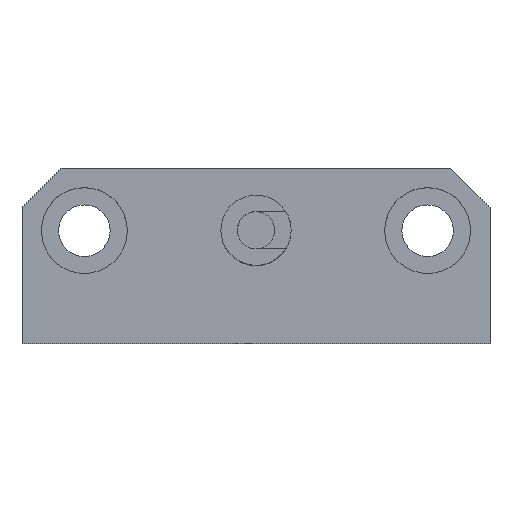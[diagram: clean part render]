
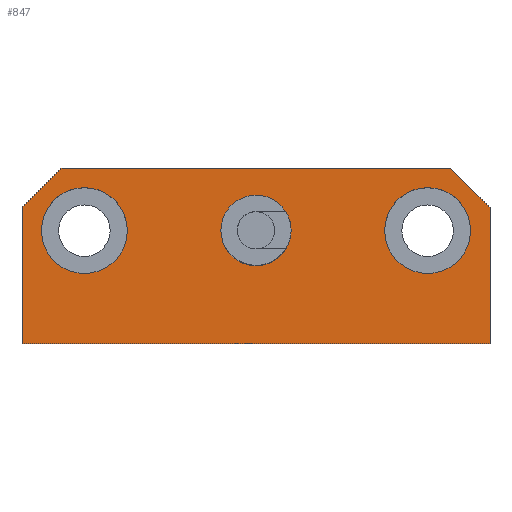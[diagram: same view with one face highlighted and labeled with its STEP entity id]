
A CAD part, top view. The second image highlights one B-rep face of the part: STEP entity #847.
In plain terms, the highlighted planar face has unit normal (0, 0, 1).
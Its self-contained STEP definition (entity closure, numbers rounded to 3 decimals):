
#3 = AXIS2_PLACEMENT_3D ( 'NONE', #742, #65, #635 ) ;
#5 = EDGE_CURVE ( 'NONE', #500, #18, #105, .T. ) ;
#7 = VERTEX_POINT ( 'NONE', #161 ) ;
#10 = CARTESIAN_POINT ( 'NONE',  ( 30., -14.5, -25. ) ) ;
#13 = AXIS2_PLACEMENT_3D ( 'NONE', #968, #958, #413 ) ;
#18 = VERTEX_POINT ( 'NONE', #450 ) ;
#21 = EDGE_CURVE ( 'NONE', #500, #380, #1073, .T. ) ;
#33 = ORIENTED_EDGE ( 'NONE', *, *, #455, .F. ) ;
#45 = FACE_BOUND ( 'NONE', #1144, .T. ) ;
#51 = CARTESIAN_POINT ( 'NONE',  ( 0., 0., -25. ) ) ;
#52 = VERTEX_POINT ( 'NONE', #435 ) ;
#58 = CARTESIAN_POINT ( 'NONE',  ( -27.5, 0., -25. ) ) ;
#63 = EDGE_CURVE ( 'NONE', #211, #52, #621, .T. ) ;
#65 = DIRECTION ( 'NONE',  ( 0., 0., 1. ) ) ;
#66 = CARTESIAN_POINT ( 'NONE',  ( -30., 3., -25. ) ) ;
#94 = VECTOR ( 'NONE', #446, 1000. ) ;
#96 = DIRECTION ( 'NONE',  ( -1., 0., 0. ) ) ;
#98 = AXIS2_PLACEMENT_3D ( 'NONE', #51, #420, #133 ) ;
#105 = LINE ( 'NONE', #1271, #234 ) ;
#113 = CIRCLE ( 'NONE', #98, 4.5 ) ;
#117 = VECTOR ( 'NONE', #949, 1000. ) ;
#122 = LINE ( 'NONE', #10, #389 ) ;
#133 = DIRECTION ( 'NONE',  ( 1., 0., 0. ) ) ;
#161 = CARTESIAN_POINT ( 'NONE',  ( 30., -14.5, -25. ) ) ;
#178 = AXIS2_PLACEMENT_3D ( 'NONE', #312, #924, #227 ) ;
#185 = LINE ( 'NONE', #479, #485 ) ;
#205 = EDGE_CURVE ( 'NONE', #52, #211, #113, .T. ) ;
#211 = VERTEX_POINT ( 'NONE', #1156 ) ;
#227 = DIRECTION ( 'NONE',  ( 1., 0., 0. ) ) ;
#232 = VERTEX_POINT ( 'NONE', #1108 ) ;
#234 = VECTOR ( 'NONE', #745, 1000. ) ;
#248 = ORIENTED_EDGE ( 'NONE', *, *, #63, .F. ) ;
#312 = CARTESIAN_POINT ( 'NONE',  ( -22., 0., -25. ) ) ;
#315 = CARTESIAN_POINT ( 'NONE',  ( 0., 0., -25. ) ) ;
#360 = ORIENTED_EDGE ( 'NONE', *, *, #1027, .T. ) ;
#380 = VERTEX_POINT ( 'NONE', #66 ) ;
#387 = CARTESIAN_POINT ( 'NONE',  ( -16.5, 0., -25. ) ) ;
#389 = VECTOR ( 'NONE', #96, 1000. ) ;
#408 = CARTESIAN_POINT ( 'NONE',  ( -22., 0., -25. ) ) ;
#413 = DIRECTION ( 'NONE',  ( -1., 0., 0. ) ) ;
#420 = DIRECTION ( 'NONE',  ( 0., 0., 1. ) ) ;
#435 = CARTESIAN_POINT ( 'NONE',  ( 4.5, 0., -25. ) ) ;
#446 = DIRECTION ( 'NONE',  ( 0., -1., 0. ) ) ;
#448 = VERTEX_POINT ( 'NONE', #1273 ) ;
#450 = CARTESIAN_POINT ( 'NONE',  ( 25., 8., -25. ) ) ;
#455 = EDGE_CURVE ( 'NONE', #232, #7, #606, .T. ) ;
#471 = DIRECTION ( 'NONE',  ( 0., 0., 1. ) ) ;
#477 = CARTESIAN_POINT ( 'NONE',  ( -30., -14.5, -25. ) ) ;
#479 = CARTESIAN_POINT ( 'NONE',  ( -30., 8., -25. ) ) ;
#485 = VECTOR ( 'NONE', #854, 1000. ) ;
#497 = EDGE_CURVE ( 'NONE', #1230, #448, #699, .T. ) ;
#500 = VERTEX_POINT ( 'NONE', #957 ) ;
#524 = EDGE_LOOP ( 'NONE', ( #1123, #248 ) ) ;
#526 = CARTESIAN_POINT ( 'NONE',  ( 30., 3., -25. ) ) ;
#551 = VECTOR ( 'NONE', #916, 1000. ) ;
#569 = CARTESIAN_POINT ( 'NONE',  ( 22., 0., -25. ) ) ;
#571 = ORIENTED_EDGE ( 'NONE', *, *, #1270, .F. ) ;
#595 = ORIENTED_EDGE ( 'NONE', *, *, #1197, .F. ) ;
#596 = EDGE_CURVE ( 'NONE', #448, #1230, #1150, .T. ) ;
#604 = CIRCLE ( 'NONE', #1288, 5.5 ) ;
#606 = LINE ( 'NONE', #753, #94 ) ;
#607 = VERTEX_POINT ( 'NONE', #477 ) ;
#612 = DIRECTION ( 'NONE',  ( 0., 0., 1. ) ) ;
#615 = CIRCLE ( 'NONE', #178, 5.5 ) ;
#618 = AXIS2_PLACEMENT_3D ( 'NONE', #569, #471, #1089 ) ;
#621 = CIRCLE ( 'NONE', #816, 4.5 ) ;
#635 = DIRECTION ( 'NONE',  ( 1., 0., 0. ) ) ;
#646 = CARTESIAN_POINT ( 'NONE',  ( -25., 8., -25. ) ) ;
#699 = CIRCLE ( 'NONE', #3, 5.5 ) ;
#720 = FACE_BOUND ( 'NONE', #524, .T. ) ;
#731 = PLANE ( 'NONE',  #13 ) ;
#741 = VERTEX_POINT ( 'NONE', #58 ) ;
#742 = CARTESIAN_POINT ( 'NONE',  ( 22., 0., -25. ) ) ;
#745 = DIRECTION ( 'NONE',  ( 1., 0., 0. ) ) ;
#753 = CARTESIAN_POINT ( 'NONE',  ( 30., 8., -25. ) ) ;
#757 = ORIENTED_EDGE ( 'NONE', *, *, #21, .T. ) ;
#793 = CARTESIAN_POINT ( 'NONE',  ( 27.5, 0., -25. ) ) ;
#816 = AXIS2_PLACEMENT_3D ( 'NONE', #315, #612, #1162 ) ;
#821 = DIRECTION ( 'NONE',  ( 1., 0., 0. ) ) ;
#847 = ADVANCED_FACE ( 'NONE', ( #45, #971, #720, #1042 ), #731, .F. ) ;
#854 = DIRECTION ( 'NONE',  ( 0., 1., 0. ) ) ;
#892 = VERTEX_POINT ( 'NONE', #387 ) ;
#916 = DIRECTION ( 'NONE',  ( -0.707, -0.707, 0. ) ) ;
#924 = DIRECTION ( 'NONE',  ( 0., 0., 1. ) ) ;
#931 = DIRECTION ( 'NONE',  ( 0., 0., 1. ) ) ;
#949 = DIRECTION ( 'NONE',  ( -0.707, 0.707, 0. ) ) ;
#957 = CARTESIAN_POINT ( 'NONE',  ( -25., 8., -25. ) ) ;
#958 = DIRECTION ( 'NONE',  ( 0., 0., -1. ) ) ;
#968 = CARTESIAN_POINT ( 'NONE',  ( 0., 0., -25. ) ) ;
#971 = FACE_BOUND ( 'NONE', #1243, .T. ) ;
#1027 = EDGE_CURVE ( 'NONE', #232, #18, #1059, .T. ) ;
#1042 = FACE_OUTER_BOUND ( 'NONE', #1165, .T. ) ;
#1044 = ORIENTED_EDGE ( 'NONE', *, *, #497, .F. ) ;
#1059 = LINE ( 'NONE', #526, #117 ) ;
#1073 = LINE ( 'NONE', #646, #551 ) ;
#1089 = DIRECTION ( 'NONE',  ( 1., 0., 0. ) ) ;
#1106 = EDGE_CURVE ( 'NONE', #741, #892, #615, .T. ) ;
#1108 = CARTESIAN_POINT ( 'NONE',  ( 30., 3., -25. ) ) ;
#1123 = ORIENTED_EDGE ( 'NONE', *, *, #205, .F. ) ;
#1125 = ORIENTED_EDGE ( 'NONE', *, *, #5, .F. ) ;
#1126 = EDGE_CURVE ( 'NONE', #892, #741, #604, .T. ) ;
#1144 = EDGE_LOOP ( 'NONE', ( #1145, #1227 ) ) ;
#1145 = ORIENTED_EDGE ( 'NONE', *, *, #1126, .F. ) ;
#1150 = CIRCLE ( 'NONE', #618, 5.5 ) ;
#1156 = CARTESIAN_POINT ( 'NONE',  ( -4.5, 0., -25. ) ) ;
#1162 = DIRECTION ( 'NONE',  ( 1., 0., 0. ) ) ;
#1165 = EDGE_LOOP ( 'NONE', ( #33, #360, #1125, #757, #595, #571 ) ) ;
#1197 = EDGE_CURVE ( 'NONE', #607, #380, #185, .T. ) ;
#1227 = ORIENTED_EDGE ( 'NONE', *, *, #1106, .F. ) ;
#1230 = VERTEX_POINT ( 'NONE', #793 ) ;
#1243 = EDGE_LOOP ( 'NONE', ( #1044, #1246 ) ) ;
#1246 = ORIENTED_EDGE ( 'NONE', *, *, #596, .F. ) ;
#1270 = EDGE_CURVE ( 'NONE', #7, #607, #122, .T. ) ;
#1271 = CARTESIAN_POINT ( 'NONE',  ( 30., 8., -25. ) ) ;
#1273 = CARTESIAN_POINT ( 'NONE',  ( 16.5, 0., -25. ) ) ;
#1288 = AXIS2_PLACEMENT_3D ( 'NONE', #408, #931, #821 ) ;
